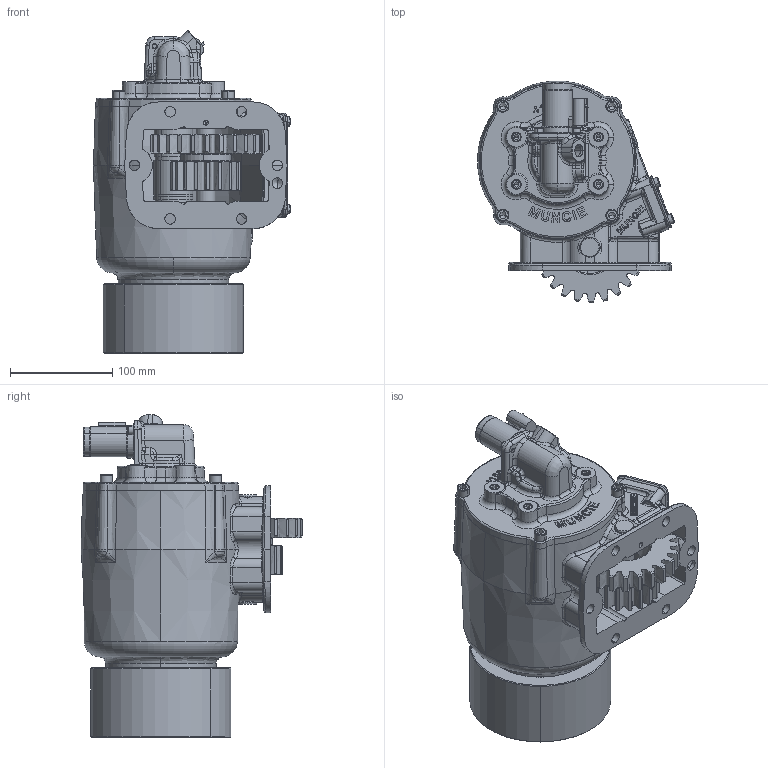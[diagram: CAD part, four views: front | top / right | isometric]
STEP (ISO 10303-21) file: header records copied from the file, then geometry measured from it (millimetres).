
FILE_DESCRIPTION (( 'STEP AP203' ), '1' );
FILE_NAME ('CS6B-A67XX-S1IP.STEP', '2023-04-03T15:38:02', ( '' ), ( '' ), 'SwSTEP 2.0', 'SolidWorks 2021', '' );
FILE_SCHEMA (( 'CONFIG_CONTROL_DESIGN' ));
Length unit declared in the file: millimetre
Products named in the file (21): 15T41597; 16T41119; 12T35949; 14T38354; 27T36173_Free Length; 03T37069; 35T40860; 15T41683; 12T36751; 19T35237; 12T34003; 19T40859; CS6B-A67XX-S1IP; 19T36082; 10T21017; 01T37073; 19T41969; 19T41118; 06T41013_06T41013; 07T37071; 15TA5220_Config1
Assembly tree (34 placements, depth 3):
  CS6B-A67XX-S1IP
    01T37073
    16T41119
    19T41118  x4
    12T34003
    19T35237  x4
    10T21017
    12T36751
    07T37071
    12T35949  x2
    27T36173_Free Length  x4
    15T41597
    19T41969  x4
    35T40860
    19T40859  x2
    19T36082
    15TA5220_Config1
      15T41683
    03T37069
    14T38354
    06T41013_06T41013
Bounding box: 192.82 x 216.84 x 315.49 mm (x, y, z)
Volume: 2306298.7 mm3; surface area: 573579.4 mm2
Topology: 33 solids, 33 shells, 3057 faces, 7833 edges, 4826 vertices
Faces by surface type: cylinder 822, plane 813, bspline 664, cone 429, torus 288, sphere 41
Entity records: 193698 total; most frequent: CARTESIAN_POINT 128063, ORIENTED_EDGE 14334, DIRECTION 11433, EDGE_CURVE 7167, AXIS2_PLACEMENT_3D 4520, VERTEX_POINT 4490, EDGE_LOOP 3061, FACE_OUTER_BOUND 2815
